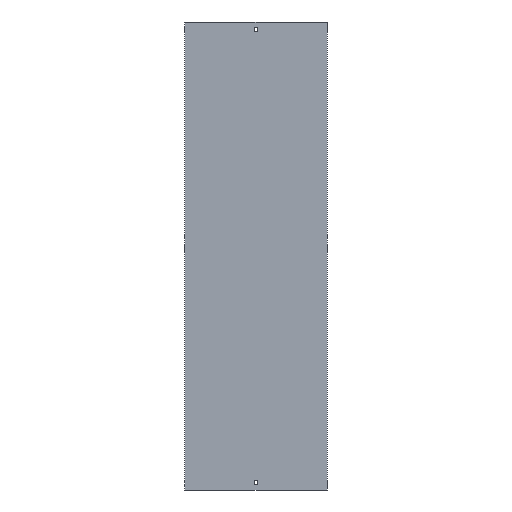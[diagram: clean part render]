
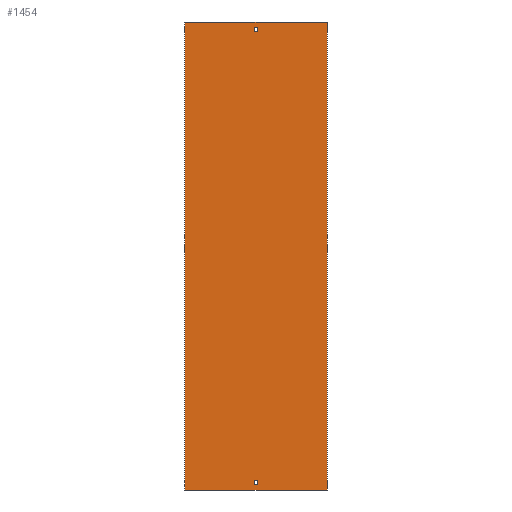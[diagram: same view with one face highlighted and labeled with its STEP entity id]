
A CAD part, front view. The second image highlights one B-rep face of the part: STEP entity #1454.
In plain terms, the highlighted planar face has unit normal (0, -1, 0).
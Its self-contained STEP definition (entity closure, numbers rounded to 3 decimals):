
#46 = LINE ( 'NONE', #704, #626 ) ;
#78 = VECTOR ( 'NONE', #280, 1000. ) ;
#117 = CARTESIAN_POINT ( 'NONE',  ( -152., 0., -500. ) ) ;
#121 = EDGE_LOOP ( 'NONE', ( #1363, #244, #1672, #554 ) ) ;
#123 = CARTESIAN_POINT ( 'NONE',  ( -3.25, 0., 488. ) ) ;
#146 = EDGE_CURVE ( 'NONE', #230, #1109, #921, .T. ) ;
#161 = DIRECTION ( 'NONE',  ( 1., 0., 0. ) ) ;
#216 = EDGE_CURVE ( 'NONE', #729, #1492, #445, .T. ) ;
#229 = LINE ( 'NONE', #361, #351 ) ;
#230 = VERTEX_POINT ( 'NONE', #1500 ) ;
#232 = CARTESIAN_POINT ( 'NONE',  ( 3.25, 0., 488. ) ) ;
#244 = ORIENTED_EDGE ( 'NONE', *, *, #1124, .F. ) ;
#268 = AXIS2_PLACEMENT_3D ( 'NONE', #1416, #1045, #1054 ) ;
#278 = DIRECTION ( 'NONE',  ( -1., 0., 0. ) ) ;
#280 = DIRECTION ( 'NONE',  ( 1., 0., 0. ) ) ;
#351 = VECTOR ( 'NONE', #1260, 1000. ) ;
#354 = VERTEX_POINT ( 'NONE', #603 ) ;
#361 = CARTESIAN_POINT ( 'NONE',  ( -152., 0., 500. ) ) ;
#368 = CARTESIAN_POINT ( 'NONE',  ( -3.25, 0., -479. ) ) ;
#445 = LINE ( 'NONE', #845, #486 ) ;
#450 = LINE ( 'NONE', #563, #1360 ) ;
#454 = ORIENTED_EDGE ( 'NONE', *, *, #500, .T. ) ;
#462 = VECTOR ( 'NONE', #610, 1000. ) ;
#486 = VECTOR ( 'NONE', #1117, 1000. ) ;
#500 = EDGE_CURVE ( 'NONE', #1448, #1109, #1189, .T. ) ;
#503 = DIRECTION ( 'NONE',  ( 0., 0., -1. ) ) ;
#506 = VERTEX_POINT ( 'NONE', #1565 ) ;
#515 = VECTOR ( 'NONE', #1131, 1000. ) ;
#516 = CARTESIAN_POINT ( 'NONE',  ( 3.25, 0., -488. ) ) ;
#527 = EDGE_LOOP ( 'NONE', ( #454, #1150, #870, #661 ) ) ;
#539 = CARTESIAN_POINT ( 'NONE',  ( 152., 0., 500. ) ) ;
#554 = ORIENTED_EDGE ( 'NONE', *, *, #1515, .F. ) ;
#555 = CARTESIAN_POINT ( 'NONE',  ( -3.25, 0., -488. ) ) ;
#556 = DIRECTION ( 'NONE',  ( 0., 0., 1. ) ) ;
#563 = CARTESIAN_POINT ( 'NONE',  ( 3.25, 0., 488. ) ) ;
#603 = CARTESIAN_POINT ( 'NONE',  ( 3.25, 0., -488. ) ) ;
#604 = LINE ( 'NONE', #731, #515 ) ;
#610 = DIRECTION ( 'NONE',  ( 0., 0., -1. ) ) ;
#625 = EDGE_CURVE ( 'NONE', #354, #729, #1459, .T. ) ;
#626 = VECTOR ( 'NONE', #161, 1000. ) ;
#633 = DIRECTION ( 'NONE',  ( 1., 0., 0. ) ) ;
#640 = CARTESIAN_POINT ( 'NONE',  ( 3.25, 0., 479. ) ) ;
#661 = ORIENTED_EDGE ( 'NONE', *, *, #1372, .T. ) ;
#704 = CARTESIAN_POINT ( 'NONE',  ( -3.25, 0., 479. ) ) ;
#729 = VERTEX_POINT ( 'NONE', #1511 ) ;
#731 = CARTESIAN_POINT ( 'NONE',  ( -3.25, 0., 488. ) ) ;
#761 = DIRECTION ( 'NONE',  ( -1., 0., 0. ) ) ;
#778 = CARTESIAN_POINT ( 'NONE',  ( -3.25, 0., 488. ) ) ;
#781 = EDGE_CURVE ( 'NONE', #506, #230, #229, .T. ) ;
#802 = DIRECTION ( 'NONE',  ( 0., 0., -1. ) ) ;
#845 = CARTESIAN_POINT ( 'NONE',  ( -3.25, 0., -488. ) ) ;
#870 = ORIENTED_EDGE ( 'NONE', *, *, #781, .F. ) ;
#921 = LINE ( 'NONE', #539, #1056 ) ;
#961 = EDGE_CURVE ( 'NONE', #1492, #1259, #1549, .T. ) ;
#974 = VERTEX_POINT ( 'NONE', #640 ) ;
#1025 = FACE_BOUND ( 'NONE', #121, .T. ) ;
#1045 = DIRECTION ( 'NONE',  ( 0., 1., 0. ) ) ;
#1054 = DIRECTION ( 'NONE',  ( -1., 0., 0. ) ) ;
#1056 = VECTOR ( 'NONE', #802, 1000. ) ;
#1070 = ORIENTED_EDGE ( 'NONE', *, *, #961, .T. ) ;
#1094 = CARTESIAN_POINT ( 'NONE',  ( 152., 0., -500. ) ) ;
#1106 = ORIENTED_EDGE ( 'NONE', *, *, #1634, .T. ) ;
#1109 = VERTEX_POINT ( 'NONE', #1094 ) ;
#1117 = DIRECTION ( 'NONE',  ( 0., 0., 1. ) ) ;
#1124 = EDGE_CURVE ( 'NONE', #1179, #1204, #604, .T. ) ;
#1131 = DIRECTION ( 'NONE',  ( 0., 0., -1. ) ) ;
#1150 = ORIENTED_EDGE ( 'NONE', *, *, #146, .F. ) ;
#1153 = FACE_OUTER_BOUND ( 'NONE', #527, .T. ) ;
#1165 = VECTOR ( 'NONE', #633, 1000. ) ;
#1179 = VERTEX_POINT ( 'NONE', #778 ) ;
#1189 = LINE ( 'NONE', #1435, #78 ) ;
#1204 = VERTEX_POINT ( 'NONE', #1667 ) ;
#1210 = EDGE_CURVE ( 'NONE', #1286, #1179, #1525, .T. ) ;
#1236 = LINE ( 'NONE', #516, #462 ) ;
#1247 = VECTOR ( 'NONE', #503, 1000. ) ;
#1259 = VERTEX_POINT ( 'NONE', #1673 ) ;
#1260 = DIRECTION ( 'NONE',  ( 1., 0., 0. ) ) ;
#1277 = ORIENTED_EDGE ( 'NONE', *, *, #216, .T. ) ;
#1286 = VERTEX_POINT ( 'NONE', #232 ) ;
#1360 = VECTOR ( 'NONE', #556, 1000. ) ;
#1363 = ORIENTED_EDGE ( 'NONE', *, *, #1527, .F. ) ;
#1372 = EDGE_CURVE ( 'NONE', #506, #1448, #1533, .T. ) ;
#1400 = CARTESIAN_POINT ( 'NONE',  ( -152., 0., 500. ) ) ;
#1416 = CARTESIAN_POINT ( 'NONE',  ( -152., 0., 500. ) ) ;
#1425 = PLANE ( 'NONE',  #268 ) ;
#1435 = CARTESIAN_POINT ( 'NONE',  ( -152., 0., -500. ) ) ;
#1448 = VERTEX_POINT ( 'NONE', #117 ) ;
#1454 = ADVANCED_FACE ( 'NONE', ( #1153, #1025, #1545 ), #1425, .F. ) ;
#1458 = EDGE_LOOP ( 'NONE', ( #1277, #1070, #1106, #1569 ) ) ;
#1459 = LINE ( 'NONE', #555, #1461 ) ;
#1461 = VECTOR ( 'NONE', #278, 1000. ) ;
#1464 = VECTOR ( 'NONE', #761, 1000. ) ;
#1484 = CARTESIAN_POINT ( 'NONE',  ( -3.25, 0., -479. ) ) ;
#1492 = VERTEX_POINT ( 'NONE', #1484 ) ;
#1500 = CARTESIAN_POINT ( 'NONE',  ( 152., 0., 500. ) ) ;
#1511 = CARTESIAN_POINT ( 'NONE',  ( -3.25, 0., -488. ) ) ;
#1515 = EDGE_CURVE ( 'NONE', #974, #1286, #450, .T. ) ;
#1525 = LINE ( 'NONE', #123, #1464 ) ;
#1527 = EDGE_CURVE ( 'NONE', #1204, #974, #46, .T. ) ;
#1533 = LINE ( 'NONE', #1400, #1247 ) ;
#1545 = FACE_BOUND ( 'NONE', #1458, .T. ) ;
#1549 = LINE ( 'NONE', #368, #1165 ) ;
#1565 = CARTESIAN_POINT ( 'NONE',  ( -152., 0., 500. ) ) ;
#1569 = ORIENTED_EDGE ( 'NONE', *, *, #625, .T. ) ;
#1634 = EDGE_CURVE ( 'NONE', #1259, #354, #1236, .T. ) ;
#1667 = CARTESIAN_POINT ( 'NONE',  ( -3.25, 0., 479. ) ) ;
#1672 = ORIENTED_EDGE ( 'NONE', *, *, #1210, .F. ) ;
#1673 = CARTESIAN_POINT ( 'NONE',  ( 3.25, 0., -479. ) ) ;
